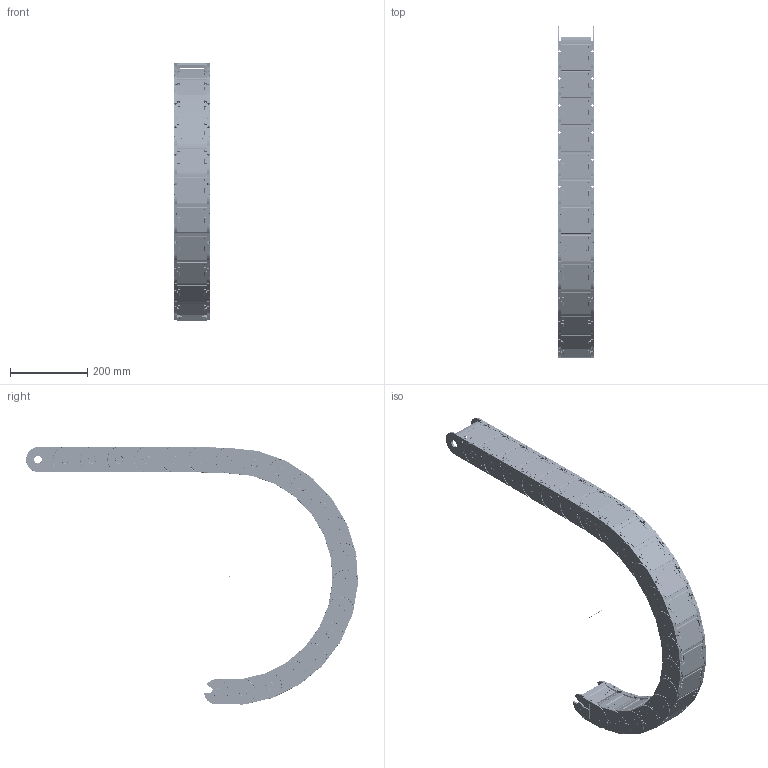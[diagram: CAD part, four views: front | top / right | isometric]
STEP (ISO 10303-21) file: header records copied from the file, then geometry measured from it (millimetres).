
FILE_DESCRIPTION((''),'2;1');
FILE_NAME('C:\Uebbing\PARAMETERKETTEN\KOLIBRI\Kol_65_095_5\Kol_65_095_5_R300.stp','2012-03-06T08:39:15',('Uebbing'),(''),'Autodesk Inventor 10','Autodesk Inventor 10','');
FILE_SCHEMA(('AUTOMOTIVE_DESIGN { 1 0 10303 214 1 1 1 1 }'));
Length unit declared in the file: millimetre
Products named in the file (5): KOLIBRI 65_095_5_PARAMETRISCH; Achse; Kol_65_095_5; Kol_65_095_5 Klappdeckel; Kol_65_095_5 Lasche
Assembly tree (24 placements, depth 3):
  KOLIBRI 65_095_5_PARAMETRISCH
    Achse
    Kol_65_095_5  x21
      Kol_65_095_5 Klappdeckel
      Kol_65_095_5 Lasche
Bounding box: 95 x 857.04 x 666.24 mm (x, y, z)
Volume: 2162117.5 mm3; surface area: 1394600.3 mm2
Topology: 43 solids, 43 shells, 12309 faces, 33478 edges, 21402 vertices
Faces by surface type: plane 4958, bspline 4557, cylinder 2269, torus 399, cone 84, sphere 42
Full cylindrical faces by diameter (mm): 1 x1, 2.514 x21, 4 x63, 4.414 x21, 6 x42, 20 x42
Entity records: 20066 total; most frequent: CARTESIAN_POINT 5568, ORIENTED_EDGE 3122, DIRECTION 2733, EDGE_CURVE 1561, VECTOR 1115, LINE 1115, VERTEX_POINT 1010, AXIS2_PLACEMENT_3D 809
